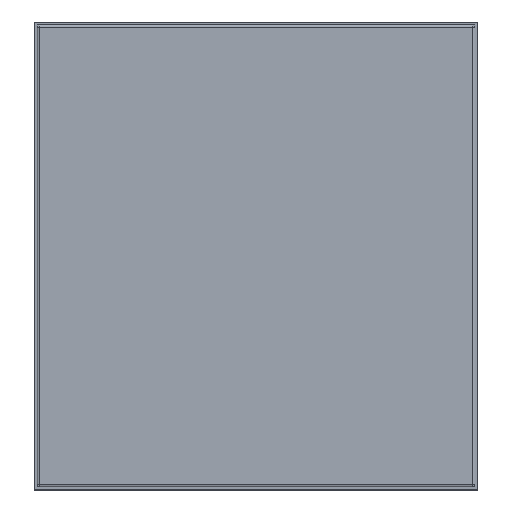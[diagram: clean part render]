
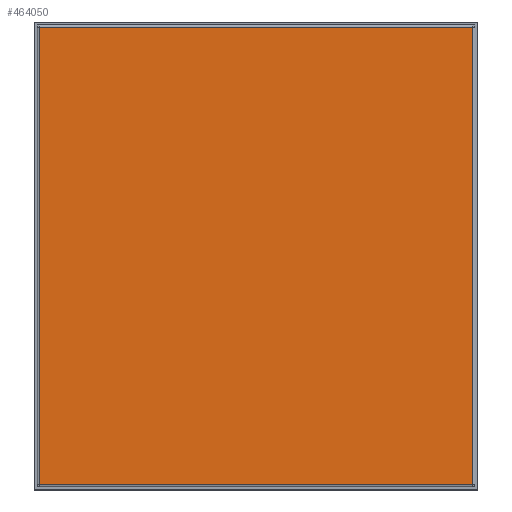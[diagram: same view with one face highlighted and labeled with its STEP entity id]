
A CAD part, top view. The second image highlights one B-rep face of the part: STEP entity #464050.
In plain terms, the highlighted planar face has unit normal (0, 0, 1) as drawn and (0, 1, 0) by its records, which use the part's own axes.
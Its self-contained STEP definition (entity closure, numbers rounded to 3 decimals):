
#461253=DIRECTION('',(-1.,0.,0.));
#461254=VECTOR('',#461253,36.1);
#461255=CARTESIAN_POINT('',(18.05,0.2,19.05));
#461256=LINE('',#461255,#461254);
#461298=DIRECTION('',(0.,0.,-1.));
#461299=VECTOR('',#461298,38.1);
#461300=CARTESIAN_POINT('',(-18.05,0.2,19.05));
#461301=LINE('',#461300,#461299);
#461411=DIRECTION('',(1.,0.,0.));
#461412=VECTOR('',#461411,36.1);
#461413=CARTESIAN_POINT('',(-18.05,0.2,-19.05));
#461414=LINE('',#461413,#461412);
#461505=DIRECTION('',(0.,0.,1.));
#461506=VECTOR('',#461505,38.1);
#461507=CARTESIAN_POINT('',(18.05,0.2,-19.05));
#461508=LINE('',#461507,#461506);
#461568=CARTESIAN_POINT('',(-18.05,0.2,-19.05));
#461569=VERTEX_POINT('',#461568);
#461570=CARTESIAN_POINT('',(-18.05,0.2,19.05));
#461571=VERTEX_POINT('',#461570);
#461580=CARTESIAN_POINT('',(18.05,0.2,19.05));
#461581=VERTEX_POINT('',#461580);
#461582=CARTESIAN_POINT('',(18.05,0.2,-19.05));
#461583=VERTEX_POINT('',#461582);
#464036=CARTESIAN_POINT('',(0.,0.2,0.));
#464037=DIRECTION('',(0.,1.,0.));
#464038=DIRECTION('',(1.,0.,0.));
#464039=AXIS2_PLACEMENT_3D('',#464036,#464037,#464038);
#464040=PLANE('',#464039);
#464041=ORIENTED_EDGE('',*,*,#464021,.T.);
#464043=ORIENTED_EDGE('',*,*,#464042,.T.);
#464045=ORIENTED_EDGE('',*,*,#464044,.T.);
#464047=ORIENTED_EDGE('',*,*,#464046,.T.);
#464048=EDGE_LOOP('',(#464041,#464043,#464045,#464047));
#464049=FACE_OUTER_BOUND('',#464048,.F.);
#464021=EDGE_CURVE('',#461581,#461571,#461256,.T.);
#464042=EDGE_CURVE('',#461571,#461569,#461301,.T.);
#464044=EDGE_CURVE('',#461569,#461583,#461414,.T.);
#464046=EDGE_CURVE('',#461583,#461581,#461508,.T.);
#464050=ADVANCED_FACE('',(#464049),#464040,.T.);
